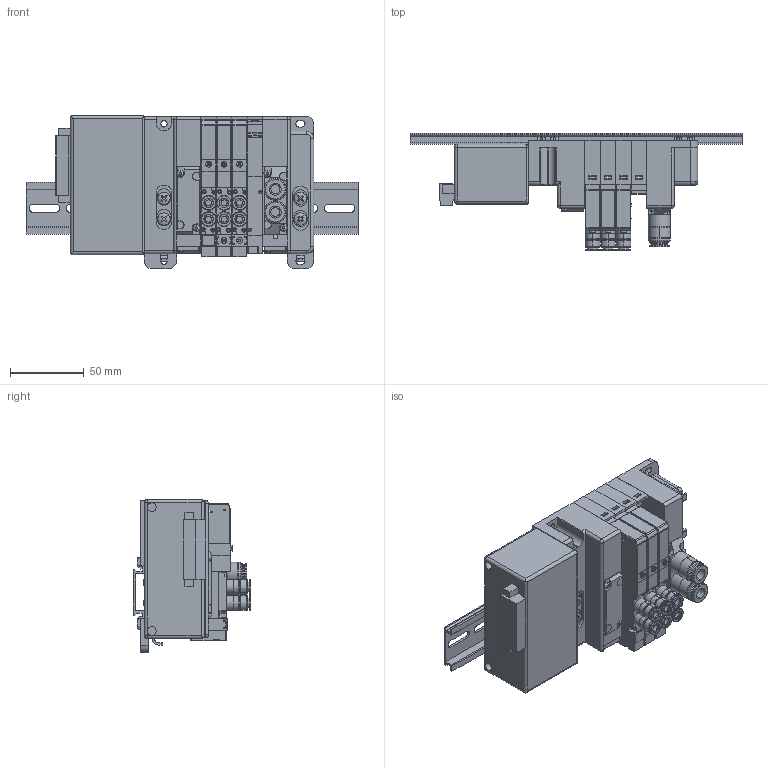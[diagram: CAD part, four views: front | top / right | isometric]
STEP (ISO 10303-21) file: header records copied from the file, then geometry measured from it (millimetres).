
FILE_DESCRIPTION( (''), '2;1');
FILE_NAME ('CVICAD02.9768.F10M4XS-JR-B1-DN_11040.stp','2020-08-31T10:44:57',(''),(''),'spGate 12.6.6','','');
FILE_SCHEMA (('AUTOMOTIVE_DESIGN'));
Length unit declared in the file: millimetre
Products named in the file (18): Assembly; F10-PP; F10ZX_ValveBaseAssy; F10_VP; F10XBPP; F10ZX-LK-DN; F10ZX-RN-DN; F10_Adptor; F_3PortBody; F10_Cap; F10_SwitchBlock1; F_Connector-L; F10T_Body; F10_Port-FJ; F10_SwitchBlock; F10_Port-PJ; DIN-RAIL225; YS6Bx
Assembly tree (38 placements, depth 2):
  Assembly
    F10-PP  x3
    F10ZX_ValveBaseAssy  x4
    F10_VP  x4
    F10XBPP
    F10ZX-LK-DN
    F10ZX-RN-DN
    F10_Adptor  x3
    F_3PortBody  x3
    F10_Cap  x3
    F10_SwitchBlock1
    F_Connector-L  x3
    F10T_Body  x3
    F10_Port-FJ  x3
    F10_SwitchBlock  x2
    F10_Port-PJ
    DIN-RAIL225
    YS6Bx
Bounding box: 225 x 79.5 x 103.7 mm (x, y, z)
Volume: 551210.7 mm3; surface area: 178773 mm2
Topology: 37 solids, 38 shells, 3516 faces, 9511 edges, 6625 vertices
Faces by surface type: plane 2357, cylinder 869, bspline 270, sphere 20
Entity records: 94275 total; most frequent: CARTESIAN_POINT 12762, ORIENTED_EDGE 9471, DIRECTION 8528, COLOUR_RGB 6521, PRESENTATION_STYLE_ASSIGNMENT 6521, STYLED_ITEM 6521, EDGE_CURVE 4737, DRAUGHTING_PRE_DEFINED_CURVE_FONT 4737
